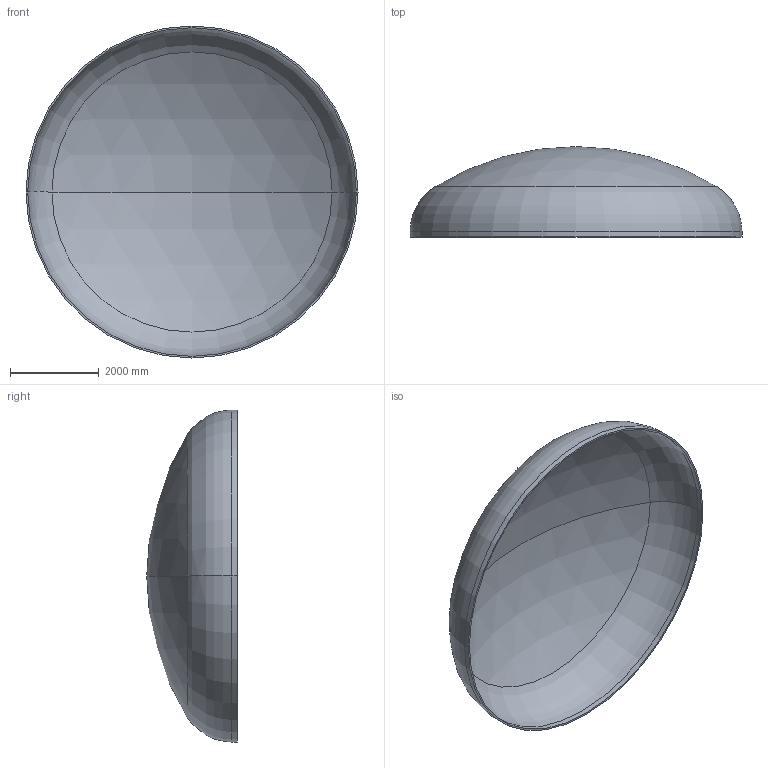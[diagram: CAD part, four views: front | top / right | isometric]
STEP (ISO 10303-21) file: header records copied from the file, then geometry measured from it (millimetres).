
FILE_DESCRIPTION (( 'STEP AP203' ), '1' );
FILE_NAME ('DIN 28013 Korbbogenform_-_Boden DIN 28013 - 7500 x 120 - I - s=39.step', '2016-07-04T10:53:40', ( '' ), ( '' ), 'SwSTEP 2.0', 'SolidWorks 2013', '' );
FILE_SCHEMA (( 'CONFIG_CONTROL_DESIGN' ));
Length unit declared in the file: millimetre
Products named in the file (1): DIN 28013 Korbbogenform_-_Boden DIN 28013 - 7500 x 120 - I - s=39
Bounding box: 7500 x 2043.07 x 7500 mm (x, y, z)
Volume: 2479709847.5 mm3; surface area: 128081880.4 mm2
Topology: 1 solids, 1 shells, 13 faces, 24 edges, 14 vertices
Faces by surface type: torus 4, cylinder 4, sphere 4, plane 1
Entity records: 407 total; most frequent: DIRECTION 72, CARTESIAN_POINT 52, ORIENTED_EDGE 48, AXIS2_PLACEMENT_3D 34, EDGE_CURVE 24, CIRCLE 20, EDGE_LOOP 14, VERTEX_POINT 14
